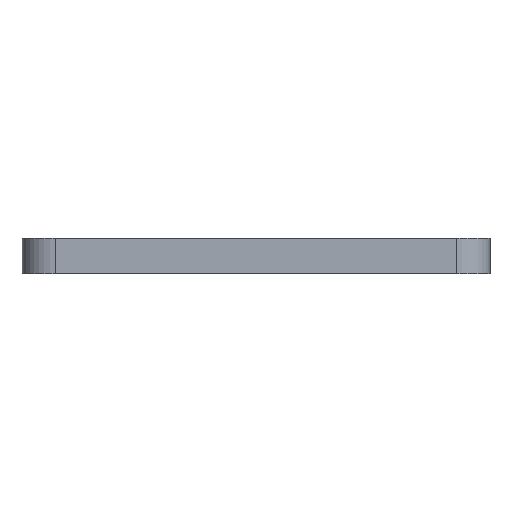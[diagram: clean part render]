
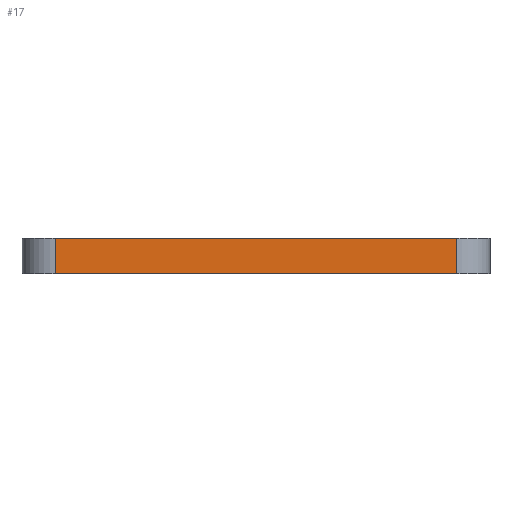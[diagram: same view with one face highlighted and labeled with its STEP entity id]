
A CAD part, left-side view. The second image highlights one B-rep face of the part: STEP entity #17.
In plain terms, the highlighted planar face has unit normal (-1, 0, 0).
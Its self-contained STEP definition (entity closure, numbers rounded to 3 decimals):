
#17 = ADVANCED_FACE('',(#18),#32,.F.);
#18 = FACE_BOUND('',#19,.F.);
#19 = EDGE_LOOP('',(#20,#55,#83,#111));
#20 = ORIENTED_EDGE('',*,*,#21,.F.);
#21 = EDGE_CURVE('',#22,#24,#26,.T.);
#22 = VERTEX_POINT('',#23);
#23 = CARTESIAN_POINT('',(-52.5,-18.,3.2));
#24 = VERTEX_POINT('',#25);
#25 = CARTESIAN_POINT('',(-52.5,18.,3.2));
#26 = SURFACE_CURVE('',#27,(#31,#43),.PCURVE_S1.);
#27 = LINE('',#28,#29);
#28 = CARTESIAN_POINT('',(-52.5,-21.,3.2));
#29 = VECTOR('',#30,1.);
#30 = DIRECTION('',(0.,1.,0.));
#31 = PCURVE('',#32,#37);
#32 = PLANE('',#33);
#33 = AXIS2_PLACEMENT_3D('',#34,#35,#36);
#34 = CARTESIAN_POINT('',(-52.5,-21.,0.));
#35 = DIRECTION('',(1.,0.,0.));
#36 = DIRECTION('',(0.,0.,1.));
#37 = DEFINITIONAL_REPRESENTATION('',(#38),#42);
#38 = LINE('',#39,#40);
#39 = CARTESIAN_POINT('',(3.2,0.));
#40 = VECTOR('',#41,1.);
#41 = DIRECTION('',(0.,-1.));
#42 = ( GEOMETRIC_REPRESENTATION_CONTEXT(2) 
PARAMETRIC_REPRESENTATION_CONTEXT() REPRESENTATION_CONTEXT('2D SPACE',''
  ) );
#43 = PCURVE('',#44,#49);
#44 = PLANE('',#45);
#45 = AXIS2_PLACEMENT_3D('',#46,#47,#48);
#46 = CARTESIAN_POINT('',(-52.5,-21.,3.2));
#47 = DIRECTION('',(0.,0.,1.));
#48 = DIRECTION('',(1.,0.,0.));
#49 = DEFINITIONAL_REPRESENTATION('',(#50),#54);
#50 = LINE('',#51,#52);
#51 = CARTESIAN_POINT('',(0.,0.));
#52 = VECTOR('',#53,1.);
#53 = DIRECTION('',(0.,1.));
#54 = ( GEOMETRIC_REPRESENTATION_CONTEXT(2) 
PARAMETRIC_REPRESENTATION_CONTEXT() REPRESENTATION_CONTEXT('2D SPACE',''
  ) );
#55 = ORIENTED_EDGE('',*,*,#56,.F.);
#56 = EDGE_CURVE('',#57,#22,#59,.T.);
#57 = VERTEX_POINT('',#58);
#58 = CARTESIAN_POINT('',(-52.5,-18.,0.));
#59 = SURFACE_CURVE('',#60,(#64,#71),.PCURVE_S1.);
#60 = LINE('',#61,#62);
#61 = CARTESIAN_POINT('',(-52.5,-18.,0.));
#62 = VECTOR('',#63,1.);
#63 = DIRECTION('',(0.,0.,1.));
#64 = PCURVE('',#32,#65);
#65 = DEFINITIONAL_REPRESENTATION('',(#66),#70);
#66 = LINE('',#67,#68);
#67 = CARTESIAN_POINT('',(0.,-3.));
#68 = VECTOR('',#69,1.);
#69 = DIRECTION('',(1.,0.));
#70 = ( GEOMETRIC_REPRESENTATION_CONTEXT(2) 
PARAMETRIC_REPRESENTATION_CONTEXT() REPRESENTATION_CONTEXT('2D SPACE',''
  ) );
#71 = PCURVE('',#72,#77);
#72 = CYLINDRICAL_SURFACE('',#73,3.);
#73 = AXIS2_PLACEMENT_3D('',#74,#75,#76);
#74 = CARTESIAN_POINT('',(-49.5,-18.,0.));
#75 = DIRECTION('',(0.,0.,1.));
#76 = DIRECTION('',(-1.,-0.,0.));
#77 = DEFINITIONAL_REPRESENTATION('',(#78),#82);
#78 = LINE('',#79,#80);
#79 = CARTESIAN_POINT('',(0.,0.));
#80 = VECTOR('',#81,1.);
#81 = DIRECTION('',(0.,1.));
#82 = ( GEOMETRIC_REPRESENTATION_CONTEXT(2) 
PARAMETRIC_REPRESENTATION_CONTEXT() REPRESENTATION_CONTEXT('2D SPACE',''
  ) );
#83 = ORIENTED_EDGE('',*,*,#84,.T.);
#84 = EDGE_CURVE('',#57,#85,#87,.T.);
#85 = VERTEX_POINT('',#86);
#86 = CARTESIAN_POINT('',(-52.5,18.,0.));
#87 = SURFACE_CURVE('',#88,(#92,#99),.PCURVE_S1.);
#88 = LINE('',#89,#90);
#89 = CARTESIAN_POINT('',(-52.5,-21.,0.));
#90 = VECTOR('',#91,1.);
#91 = DIRECTION('',(0.,1.,0.));
#92 = PCURVE('',#32,#93);
#93 = DEFINITIONAL_REPRESENTATION('',(#94),#98);
#94 = LINE('',#95,#96);
#95 = CARTESIAN_POINT('',(0.,0.));
#96 = VECTOR('',#97,1.);
#97 = DIRECTION('',(0.,-1.));
#98 = ( GEOMETRIC_REPRESENTATION_CONTEXT(2) 
PARAMETRIC_REPRESENTATION_CONTEXT() REPRESENTATION_CONTEXT('2D SPACE',''
  ) );
#99 = PCURVE('',#100,#105);
#100 = PLANE('',#101);
#101 = AXIS2_PLACEMENT_3D('',#102,#103,#104);
#102 = CARTESIAN_POINT('',(-52.5,-21.,0.));
#103 = DIRECTION('',(0.,0.,1.));
#104 = DIRECTION('',(1.,0.,0.));
#105 = DEFINITIONAL_REPRESENTATION('',(#106),#110);
#106 = LINE('',#107,#108);
#107 = CARTESIAN_POINT('',(0.,0.));
#108 = VECTOR('',#109,1.);
#109 = DIRECTION('',(0.,1.));
#110 = ( GEOMETRIC_REPRESENTATION_CONTEXT(2) 
PARAMETRIC_REPRESENTATION_CONTEXT() REPRESENTATION_CONTEXT('2D SPACE',''
  ) );
#111 = ORIENTED_EDGE('',*,*,#112,.T.);
#112 = EDGE_CURVE('',#85,#24,#113,.T.);
#113 = SURFACE_CURVE('',#114,(#118,#125),.PCURVE_S1.);
#114 = LINE('',#115,#116);
#115 = CARTESIAN_POINT('',(-52.5,18.,0.));
#116 = VECTOR('',#117,1.);
#117 = DIRECTION('',(0.,0.,1.));
#118 = PCURVE('',#32,#119);
#119 = DEFINITIONAL_REPRESENTATION('',(#120),#124);
#120 = LINE('',#121,#122);
#121 = CARTESIAN_POINT('',(0.,-39.));
#122 = VECTOR('',#123,1.);
#123 = DIRECTION('',(1.,0.));
#124 = ( GEOMETRIC_REPRESENTATION_CONTEXT(2) 
PARAMETRIC_REPRESENTATION_CONTEXT() REPRESENTATION_CONTEXT('2D SPACE',''
  ) );
#125 = PCURVE('',#126,#131);
#126 = CYLINDRICAL_SURFACE('',#127,3.);
#127 = AXIS2_PLACEMENT_3D('',#128,#129,#130);
#128 = CARTESIAN_POINT('',(-49.5,18.,0.));
#129 = DIRECTION('',(0.,0.,1.));
#130 = DIRECTION('',(-1.,-0.,0.));
#131 = DEFINITIONAL_REPRESENTATION('',(#132),#136);
#132 = LINE('',#133,#134);
#133 = CARTESIAN_POINT('',(-0.,0.));
#134 = VECTOR('',#135,1.);
#135 = DIRECTION('',(-0.,1.));
#136 = ( GEOMETRIC_REPRESENTATION_CONTEXT(2) 
PARAMETRIC_REPRESENTATION_CONTEXT() REPRESENTATION_CONTEXT('2D SPACE',''
  ) );
